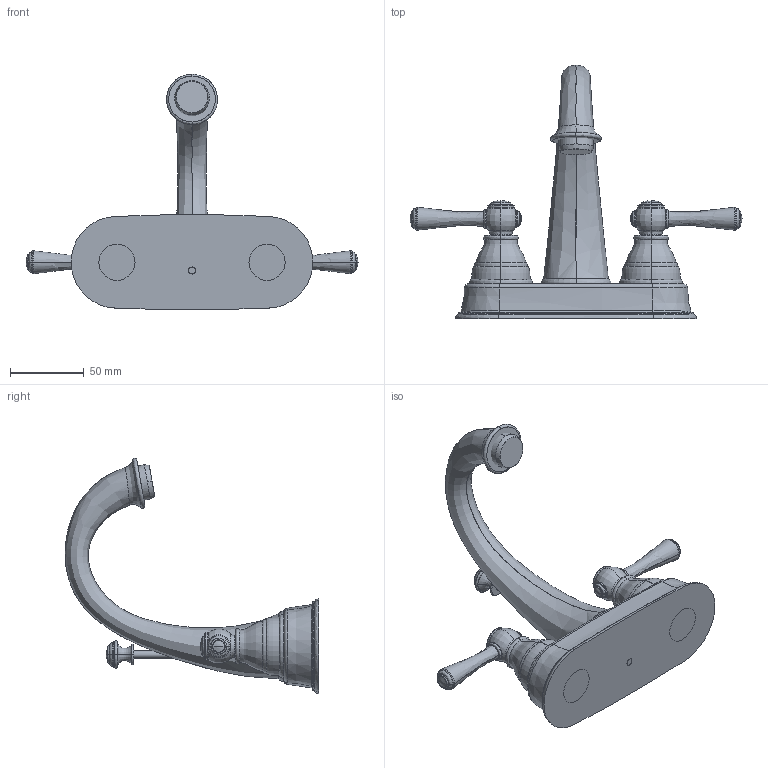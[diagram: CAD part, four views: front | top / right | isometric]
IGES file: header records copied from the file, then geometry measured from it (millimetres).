
Start section:  PTC IGES file: sku_6121.igs
Global section: file name: sku_6121.igs; native system: Pro/ENGINEER by Parametric Technology Corporation; preprocessor: 2006460; author: 9dutterb; organization: Unknown; date: 20071207.155230; units: inch
Bounding box: 224.74 x 171.73 x 159.35 mm (x, y, z)
Surface area: 67326.4 mm2 (no closed solid volume)
Topology: 0 solids, 0 shells, 218 faces, 880 edges, 866 vertices
Faces by surface type: revolution 191, bspline 27
